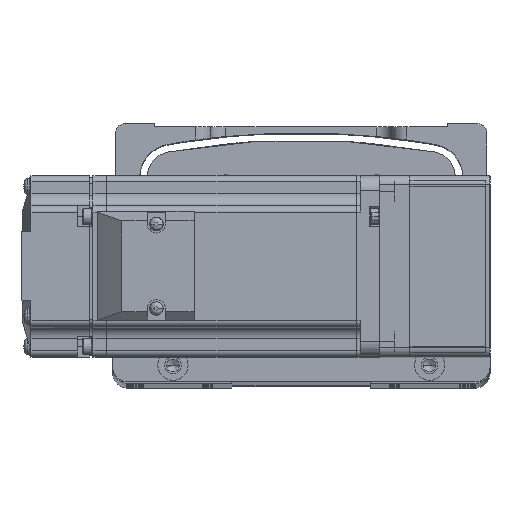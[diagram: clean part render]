
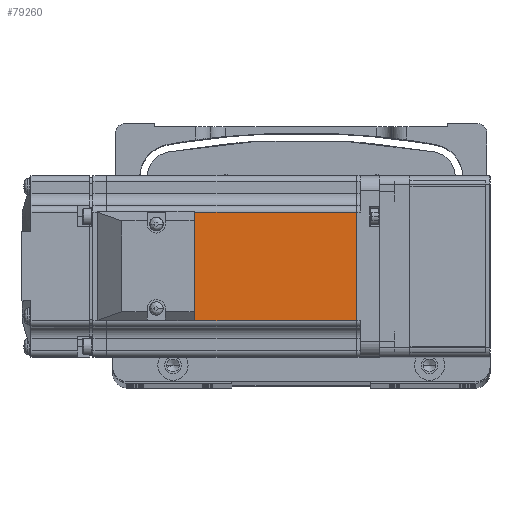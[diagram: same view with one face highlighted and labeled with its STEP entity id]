
A CAD part, top view. The second image highlights one B-rep face of the part: STEP entity #79260.
In plain terms, the highlighted planar face has unit normal (0, 0, 1) as drawn and (0, 1, 0) by its records, which use the part's own axes.
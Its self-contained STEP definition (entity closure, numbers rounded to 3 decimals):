
#6500 = VERTEX_POINT ( 'NONE', #30882 ) ;
#6641 = ORIENTED_EDGE ( 'NONE', *, *, #52588, .T. ) ;
#7503 = DIRECTION ( 'NONE',  ( 1., 0., 0. ) ) ;
#12137 = CARTESIAN_POINT ( 'NONE',  ( -7.75, 30., 0. ) ) ;
#19633 = VECTOR ( 'NONE', #43889, 1000. ) ;
#20248 = AXIS2_PLACEMENT_3D ( 'NONE', #59658, #21097, #66090 ) ;
#20774 = CARTESIAN_POINT ( 'NONE',  ( -90.45, 30., 18. ) ) ;
#21097 = DIRECTION ( 'NONE',  ( 0., 1., 0. ) ) ;
#21266 = EDGE_LOOP ( 'NONE', ( #64996, #38939, #38463, #6641 ) ) ;
#22617 = VECTOR ( 'NONE', #7503, 1000. ) ;
#23963 = FACE_OUTER_BOUND ( 'NONE', #21266, .T. ) ;
#24836 = EDGE_CURVE ( 'NONE', #67892, #55850, #70967, .T. ) ;
#26185 = CARTESIAN_POINT ( 'NONE',  ( -7.75, 30., -18. ) ) ;
#26787 = LINE ( 'NONE', #65015, #57009 ) ;
#30882 = CARTESIAN_POINT ( 'NONE',  ( -7.75, 30., 18. ) ) ;
#34692 = EDGE_CURVE ( 'NONE', #68730, #6500, #44538, .T. ) ;
#38463 = ORIENTED_EDGE ( 'NONE', *, *, #24836, .T. ) ;
#38939 = ORIENTED_EDGE ( 'NONE', *, *, #62346, .T. ) ;
#39427 = DIRECTION ( 'NONE',  ( -1., 0., 0. ) ) ;
#39738 = LINE ( 'NONE', #52618, #22617 ) ;
#43889 = DIRECTION ( 'NONE',  ( 0., 0., 1. ) ) ;
#44538 = LINE ( 'NONE', #12137, #59675 ) ;
#52588 = EDGE_CURVE ( 'NONE', #55850, #6500, #39738, .T. ) ;
#52618 = CARTESIAN_POINT ( 'NONE',  ( -6.5, 30., 18. ) ) ;
#55850 = VERTEX_POINT ( 'NONE', #20774 ) ;
#57009 = VECTOR ( 'NONE', #39427, 1000. ) ;
#59658 = CARTESIAN_POINT ( 'NONE',  ( -6.5, 30., 25. ) ) ;
#59675 = VECTOR ( 'NONE', #70112, 1000. ) ;
#62346 = EDGE_CURVE ( 'NONE', #68730, #67892, #26787, .T. ) ;
#64996 = ORIENTED_EDGE ( 'NONE', *, *, #34692, .F. ) ;
#65015 = CARTESIAN_POINT ( 'NONE',  ( -6.5, 30., -18. ) ) ;
#66090 = DIRECTION ( 'NONE',  ( 0., 0., 1. ) ) ;
#67892 = VERTEX_POINT ( 'NONE', #68010 ) ;
#68010 = CARTESIAN_POINT ( 'NONE',  ( -90.45, 30., -18. ) ) ;
#68730 = VERTEX_POINT ( 'NONE', #26185 ) ;
#70112 = DIRECTION ( 'NONE',  ( 0., 0., 1. ) ) ;
#70967 = LINE ( 'NONE', #76233, #19633 ) ;
#71988 = PLANE ( 'NONE',  #20248 ) ;
#76233 = CARTESIAN_POINT ( 'NONE',  ( -90.45, 30., 0. ) ) ;
#79260 = ADVANCED_FACE ( 'NONE', ( #23963 ), #71988, .T. ) ;
